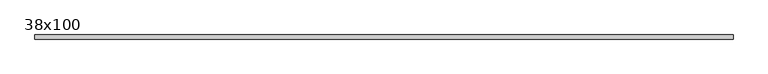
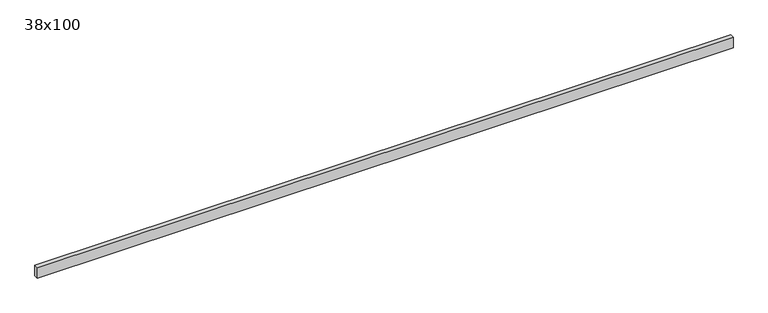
"""IFC4 building model written with IfcOpenShell, lengths in millimetres: beam geometry, Poutre - Bois de construction de dimensions courantes : 38x100."""

from ifc_helpers import new_model, si_unit, frame, origin, place, context, project, spatial, polyline, outline, extrude, source, transform, mapped, element, save


def beam_38x100_165663a2(model_context):
    return source(origin(), model_context, "Body", "SweptSolid", [
        extrude(outline(polyline([(3192.5, 19.05), (3192.5, -19.05), (-3192.5, -19.05), (-3192.5, 19.05), (3192.5, 19.05)])), frame((0.0, 0.0, -50.0), z_axis=(0.0, 0.0, 1.0), x_axis=(1.0, 0.0, 0.0)), (0.0, 0.0, 1.0), 100.0),
    ])


if __name__ == "__main__":
    model = new_model("IFC4")
    model_context = context("Model", 3, world=origin())
    ifc_project = project(units=[si_unit("LENGTHUNIT", "METRE", prefix="MILLI")], contexts=[model_context])
    site = spatial("IfcSite", under=ifc_project)
    building = spatial("IfcBuilding", under=site)
    placement = place(None, origin())
    beam_38x100_shape = beam_38x100_165663a2(model_context)
    element("IfcBeam", 1, ObjectType="Poutre - Bois de construction de dimensions courantes : 38x100", at=placement, inside=building, context=model_context, shape_type="MappedRepresentation", body=[
        mapped(beam_38x100_shape, transform((0.0, 0.0, 0.0), x_axis=(1.0, 0.0, 0.0), y_axis=(0.0, 1.0, 0.0), z_axis=(0.0, 0.0, 1.0))),
    ])
    save(model, "model.ifc")
